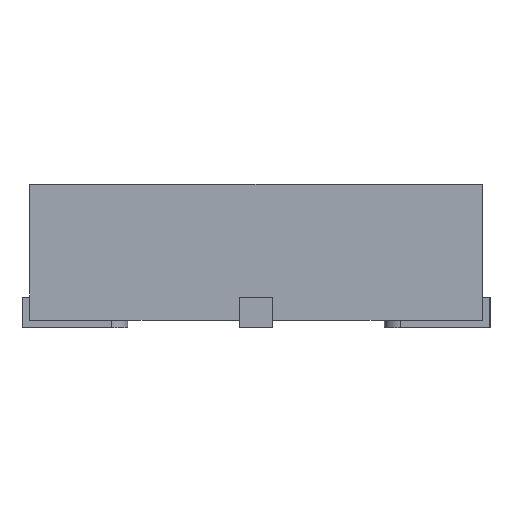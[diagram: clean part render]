
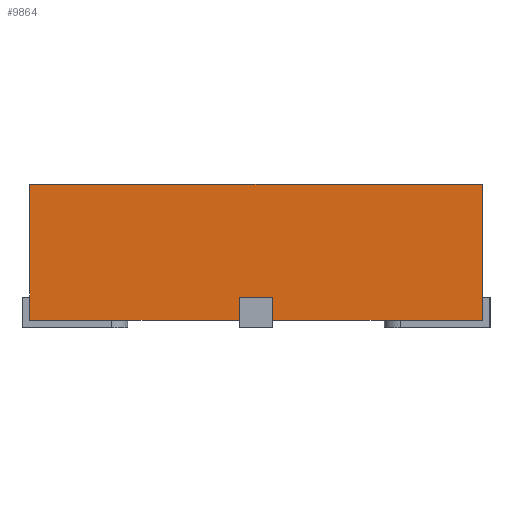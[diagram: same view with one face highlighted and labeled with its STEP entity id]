
A CAD part, front view. The second image highlights one B-rep face of the part: STEP entity #9864.
In plain terms, the highlighted planar face has unit normal (0, -1, 0).
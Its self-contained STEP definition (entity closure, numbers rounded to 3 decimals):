
#394 = CARTESIAN_POINT ( 'NONE',  ( -0.11, -1.5, 0.15 ) ) ;
#436 = ORIENTED_EDGE ( 'NONE', *, *, #6605, .F. ) ;
#565 = CARTESIAN_POINT ( 'NONE',  ( 1.5, -1.5, 0.9 ) ) ;
#802 = CARTESIAN_POINT ( 'NONE',  ( -1.5, -1.5, 0.9 ) ) ;
#892 = CARTESIAN_POINT ( 'NONE',  ( 0.11, -1.5, 0.15 ) ) ;
#1158 = DIRECTION ( 'NONE',  ( 0., 0., -1. ) ) ;
#1208 = EDGE_CURVE ( 'NONE', #7530, #6152, #6808, .T. ) ;
#1216 = LINE ( 'NONE', #8023, #5843 ) ;
#1408 = DIRECTION ( 'NONE',  ( 0., 1., 0. ) ) ;
#1625 = CARTESIAN_POINT ( 'NONE',  ( 0.11, -1.5, 0. ) ) ;
#1731 = EDGE_CURVE ( 'NONE', #8841, #8930, #10806, .T. ) ;
#1831 = ORIENTED_EDGE ( 'NONE', *, *, #9016, .F. ) ;
#1844 = LINE ( 'NONE', #6841, #3371 ) ;
#1905 = ORIENTED_EDGE ( 'NONE', *, *, #8042, .F. ) ;
#2153 = LINE ( 'NONE', #4806, #7679 ) ;
#2619 = EDGE_LOOP ( 'NONE', ( #4807, #1831, #7864, #6828, #436, #4404, #8295, #1905 ) ) ;
#2706 = DIRECTION ( 'NONE',  ( -1., 0., 0. ) ) ;
#2716 = VECTOR ( 'NONE', #2706, 1000. ) ;
#3371 = VECTOR ( 'NONE', #8545, 1000. ) ;
#3627 = CARTESIAN_POINT ( 'NONE',  ( 1.5, -1.5, 0.9 ) ) ;
#4038 = CARTESIAN_POINT ( 'NONE',  ( -0.11, -1.5, 0. ) ) ;
#4050 = VERTEX_POINT ( 'NONE', #892 ) ;
#4074 = FACE_OUTER_BOUND ( 'NONE', #2619, .T. ) ;
#4404 = ORIENTED_EDGE ( 'NONE', *, *, #8471, .F. ) ;
#4412 = VECTOR ( 'NONE', #1158, 1000. ) ;
#4710 = AXIS2_PLACEMENT_3D ( 'NONE', #802, #1408, #7424 ) ;
#4806 = CARTESIAN_POINT ( 'NONE',  ( -1.5, -1.5, 0. ) ) ;
#4807 = ORIENTED_EDGE ( 'NONE', *, *, #6266, .F. ) ;
#4957 = CARTESIAN_POINT ( 'NONE',  ( -1.5, -1.5, 0.9 ) ) ;
#5135 = CARTESIAN_POINT ( 'NONE',  ( -1.5, -1.5, 0. ) ) ;
#5761 = CARTESIAN_POINT ( 'NONE',  ( 0., -1.5, 0.9 ) ) ;
#5843 = VECTOR ( 'NONE', #10425, 1000. ) ;
#6082 = VECTOR ( 'NONE', #9199, 1000. ) ;
#6152 = VERTEX_POINT ( 'NONE', #1625 ) ;
#6266 = EDGE_CURVE ( 'NONE', #10335, #7429, #1844, .T. ) ;
#6432 = DIRECTION ( 'NONE',  ( 0., 0., 1. ) ) ;
#6545 = LINE ( 'NONE', #5761, #6082 ) ;
#6597 = CARTESIAN_POINT ( 'NONE',  ( -1.5, -1.5, 0.9 ) ) ;
#6605 = EDGE_CURVE ( 'NONE', #8278, #7530, #7853, .T. ) ;
#6742 = PLANE ( 'NONE',  #4710 ) ;
#6808 = LINE ( 'NONE', #5135, #10428 ) ;
#6828 = ORIENTED_EDGE ( 'NONE', *, *, #1208, .F. ) ;
#6841 = CARTESIAN_POINT ( 'NONE',  ( -0.11, -1.5, 0.9 ) ) ;
#7424 = DIRECTION ( 'NONE',  ( 0., 0., 1. ) ) ;
#7429 = VERTEX_POINT ( 'NONE', #4038 ) ;
#7442 = DIRECTION ( 'NONE',  ( -1., 0., 0. ) ) ;
#7455 = DIRECTION ( 'NONE',  ( -1., 0., 0. ) ) ;
#7530 = VERTEX_POINT ( 'NONE', #8300 ) ;
#7679 = VECTOR ( 'NONE', #7442, 1000. ) ;
#7853 = LINE ( 'NONE', #3627, #4412 ) ;
#7864 = ORIENTED_EDGE ( 'NONE', *, *, #10544, .F. ) ;
#8004 = CARTESIAN_POINT ( 'NONE',  ( -1.5, -1.5, 0. ) ) ;
#8023 = CARTESIAN_POINT ( 'NONE',  ( 0.11, -1.5, 0.9 ) ) ;
#8042 = EDGE_CURVE ( 'NONE', #7429, #8841, #2153, .T. ) ;
#8278 = VERTEX_POINT ( 'NONE', #565 ) ;
#8295 = ORIENTED_EDGE ( 'NONE', *, *, #1731, .F. ) ;
#8300 = CARTESIAN_POINT ( 'NONE',  ( 1.5, -1.5, 0. ) ) ;
#8313 = VECTOR ( 'NONE', #6432, 1000. ) ;
#8471 = EDGE_CURVE ( 'NONE', #8930, #8278, #6545, .T. ) ;
#8495 = LINE ( 'NONE', #10389, #2716 ) ;
#8545 = DIRECTION ( 'NONE',  ( 0., 0., -1. ) ) ;
#8841 = VERTEX_POINT ( 'NONE', #8004 ) ;
#8930 = VERTEX_POINT ( 'NONE', #4957 ) ;
#9016 = EDGE_CURVE ( 'NONE', #4050, #10335, #8495, .T. ) ;
#9199 = DIRECTION ( 'NONE',  ( 1., 0., 0. ) ) ;
#9864 = ADVANCED_FACE ( 'NONE', ( #4074 ), #6742, .F. ) ;
#10335 = VERTEX_POINT ( 'NONE', #394 ) ;
#10389 = CARTESIAN_POINT ( 'NONE',  ( -1.5, -1.5, 0.15 ) ) ;
#10425 = DIRECTION ( 'NONE',  ( 0., 0., 1. ) ) ;
#10428 = VECTOR ( 'NONE', #7455, 1000. ) ;
#10544 = EDGE_CURVE ( 'NONE', #6152, #4050, #1216, .T. ) ;
#10806 = LINE ( 'NONE', #6597, #8313 ) ;
